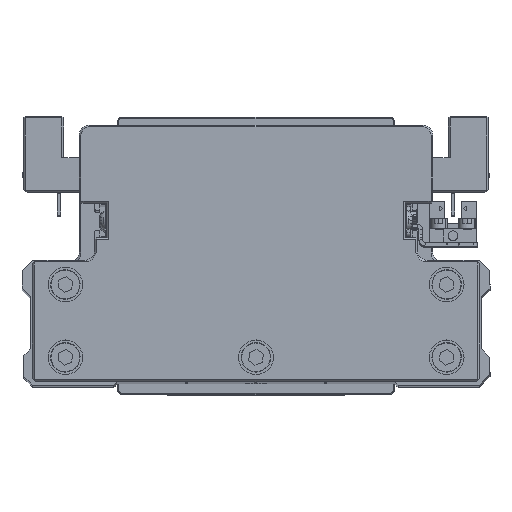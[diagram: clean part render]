
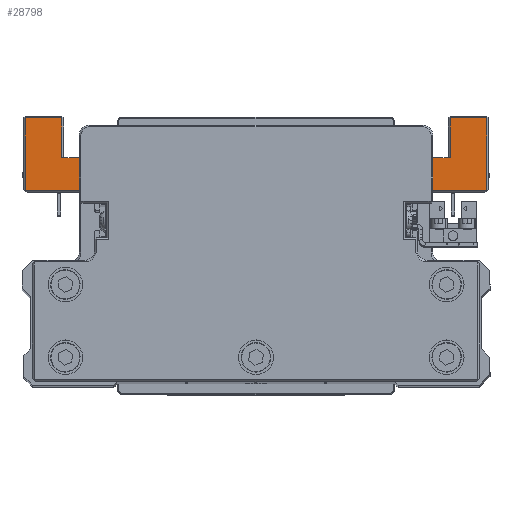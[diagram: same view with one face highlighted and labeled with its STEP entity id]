
A CAD part, top view. The second image highlights one B-rep face of the part: STEP entity #28798.
In plain terms, the highlighted planar face has unit normal (0, 0, 1) as drawn and (0, -1, 0) by its records, which use the part's own axes.
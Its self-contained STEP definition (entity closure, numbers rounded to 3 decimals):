
#77 = DIRECTION ( 'NONE',  ( 1., 0., 0. ) ) ;
#259 = CARTESIAN_POINT ( 'NONE',  ( 66.5, -45., -64. ) ) ;
#725 = DIRECTION ( 'NONE',  ( 0., 0., -1. ) ) ;
#819 = LINE ( 'NONE', #13031, #37219 ) ;
#976 = ORIENTED_EDGE ( 'NONE', *, *, #5718, .F. ) ;
#982 = ORIENTED_EDGE ( 'NONE', *, *, #38992, .T. ) ;
#1112 = DIRECTION ( 'NONE',  ( 0., 0., 1. ) ) ;
#1225 = VECTOR ( 'NONE', #6155, 1000. ) ;
#1283 = CARTESIAN_POINT ( 'NONE',  ( 46., -45., -54. ) ) ;
#1342 = VERTEX_POINT ( 'NONE', #33151 ) ;
#1745 = EDGE_CURVE ( 'NONE', #11374, #8166, #28163, .T. ) ;
#1892 = LINE ( 'NONE', #14096, #27022 ) ;
#2253 = DIRECTION ( 'NONE',  ( -0.991, 0., 0.132 ) ) ;
#2312 = VERTEX_POINT ( 'NONE', #21242 ) ;
#2483 = EDGE_CURVE ( 'NONE', #28383, #39223, #19205, .T. ) ;
#3019 = EDGE_CURVE ( 'NONE', #2312, #20739, #1892, .T. ) ;
#3265 = VECTOR ( 'NONE', #37296, 1000. ) ;
#3867 = DIRECTION ( 'NONE',  ( 0., 0., -1. ) ) ;
#3988 = DIRECTION ( 'NONE',  ( -1., 0., 0. ) ) ;
#5356 = ORIENTED_EDGE ( 'NONE', *, *, #19787, .T. ) ;
#5718 = EDGE_CURVE ( 'NONE', #5726, #35766, #16328, .T. ) ;
#5726 = VERTEX_POINT ( 'NONE', #7323 ) ;
#6151 = DIRECTION ( 'NONE',  ( -1., 0., 0. ) ) ;
#6155 = DIRECTION ( 'NONE',  ( 0., 0., 1. ) ) ;
#6385 = CARTESIAN_POINT ( 'NONE',  ( 67., -45., -64. ) ) ;
#7207 = CARTESIAN_POINT ( 'NONE',  ( 56., -45., -64. ) ) ;
#7323 = CARTESIAN_POINT ( 'NONE',  ( -46., -45., -54. ) ) ;
#7403 = DIRECTION ( 'NONE',  ( 0., 0., -1. ) ) ;
#7740 = CARTESIAN_POINT ( 'NONE',  ( -66.5, -45., -43. ) ) ;
#8154 = VECTOR ( 'NONE', #2253, 1000. ) ;
#8166 = VERTEX_POINT ( 'NONE', #8617 ) ;
#8489 = CARTESIAN_POINT ( 'NONE',  ( -55.5, -45., -64. ) ) ;
#8598 = CARTESIAN_POINT ( 'NONE',  ( -39.868, -45., -42.987 ) ) ;
#8617 = CARTESIAN_POINT ( 'NONE',  ( 39.868, -45., -42.987 ) ) ;
#9155 = VECTOR ( 'NONE', #6151, 1000. ) ;
#9677 = VECTOR ( 'NONE', #3867, 1000. ) ;
#9796 = VECTOR ( 'NONE', #9997, 1000. ) ;
#9997 = DIRECTION ( 'NONE',  ( -1., 0., 0. ) ) ;
#10357 = DIRECTION ( 'NONE',  ( 0., 1., 0. ) ) ;
#10419 = PLANE ( 'NONE',  #30774 ) ;
#10898 = AXIS2_PLACEMENT_3D ( 'NONE', #26708, #38941, #11482 ) ;
#11374 = VERTEX_POINT ( 'NONE', #35826 ) ;
#11412 = ORIENTED_EDGE ( 'NONE', *, *, #17517, .T. ) ;
#11482 = DIRECTION ( 'NONE',  ( 0., 0., -1. ) ) ;
#11486 = CARTESIAN_POINT ( 'NONE',  ( -56., -45., -52.5 ) ) ;
#11811 = ORIENTED_EDGE ( 'NONE', *, *, #32246, .F. ) ;
#12619 = ORIENTED_EDGE ( 'NONE', *, *, #36101, .F. ) ;
#12842 = LINE ( 'NONE', #25065, #3265 ) ;
#13031 = CARTESIAN_POINT ( 'NONE',  ( -66., -45., -43. ) ) ;
#13528 = VECTOR ( 'NONE', #725, 1000. ) ;
#13705 = VECTOR ( 'NONE', #77, 1000. ) ;
#14096 = CARTESIAN_POINT ( 'NONE',  ( -77.786, -45., -42.5 ) ) ;
#15278 = LINE ( 'NONE', #27508, #13705 ) ;
#15751 = ORIENTED_EDGE ( 'NONE', *, *, #20264, .T. ) ;
#15935 = LINE ( 'NONE', #28164, #13528 ) ;
#16188 = CARTESIAN_POINT ( 'NONE',  ( -36.217, -45., -42.5 ) ) ;
#16328 = LINE ( 'NONE', #28547, #28319 ) ;
#16843 = VECTOR ( 'NONE', #23707, 1000. ) ;
#17468 = LINE ( 'NONE', #29688, #8154 ) ;
#17517 = EDGE_CURVE ( 'NONE', #36035, #17595, #21406, .T. ) ;
#17595 = VERTEX_POINT ( 'NONE', #18792 ) ;
#17762 = VERTEX_POINT ( 'NONE', #19979 ) ;
#18598 = VECTOR ( 'NONE', #18623, 1000. ) ;
#18623 = DIRECTION ( 'NONE',  ( 1., 0., 0. ) ) ;
#18792 = CARTESIAN_POINT ( 'NONE',  ( 66.5, -45., -43. ) ) ;
#19075 = AXIS2_PLACEMENT_3D ( 'NONE', #37821, #10357, #22585 ) ;
#19080 = LINE ( 'NONE', #31307, #9677 ) ;
#19205 = LINE ( 'NONE', #31433, #19911 ) ;
#19787 = EDGE_CURVE ( 'NONE', #28383, #28040, #19080, .T. ) ;
#19911 = VECTOR ( 'NONE', #3988, 1000. ) ;
#19979 = CARTESIAN_POINT ( 'NONE',  ( -39.868, -45., -42.987 ) ) ;
#20205 = CARTESIAN_POINT ( 'NONE',  ( -56., -45., -52.5 ) ) ;
#20264 = EDGE_CURVE ( 'NONE', #28976, #22768, #819, .T. ) ;
#20342 = ORIENTED_EDGE ( 'NONE', *, *, #21478, .T. ) ;
#20392 = ORIENTED_EDGE ( 'NONE', *, *, #24010, .T. ) ;
#20712 = DIRECTION ( 'NONE',  ( 1., 0., 0. ) ) ;
#20739 = VERTEX_POINT ( 'NONE', #16188 ) ;
#20812 = DIRECTION ( 'NONE',  ( -0.991, 0., -0.132 ) ) ;
#21242 = CARTESIAN_POINT ( 'NONE',  ( 36.217, -45., -42.5 ) ) ;
#21404 = LINE ( 'NONE', #33610, #9155 ) ;
#21406 = LINE ( 'NONE', #33612, #1225 ) ;
#21419 = ORIENTED_EDGE ( 'NONE', *, *, #37593, .T. ) ;
#21478 = EDGE_CURVE ( 'NONE', #34799, #22356, #38945, .T. ) ;
#22356 = VERTEX_POINT ( 'NONE', #20205 ) ;
#22585 = DIRECTION ( 'NONE',  ( 0., 0., -1. ) ) ;
#22640 = CARTESIAN_POINT ( 'NONE',  ( 0., -45., 0. ) ) ;
#22768 = VERTEX_POINT ( 'NONE', #7740 ) ;
#22874 = CARTESIAN_POINT ( 'NONE',  ( 46., -45., -52.5 ) ) ;
#23228 = EDGE_CURVE ( 'NONE', #8166, #2312, #17468, .T. ) ;
#23707 = DIRECTION ( 'NONE',  ( 0., 0., 1. ) ) ;
#24010 = EDGE_CURVE ( 'NONE', #17762, #28976, #36371, .T. ) ;
#25065 = CARTESIAN_POINT ( 'NONE',  ( 46., -45., -52.5 ) ) ;
#25236 = LINE ( 'NONE', #37458, #9796 ) ;
#25254 = DIRECTION ( 'NONE',  ( -1., 0., 0. ) ) ;
#25579 = ORIENTED_EDGE ( 'NONE', *, *, #1745, .T. ) ;
#26153 = EDGE_CURVE ( 'NONE', #28040, #36035, #33835, .T. ) ;
#26323 = DIRECTION ( 'NONE',  ( -1., 0., 0. ) ) ;
#26708 = CARTESIAN_POINT ( 'NONE',  ( 40.066, -45., -41.5 ) ) ;
#27022 = VECTOR ( 'NONE', #26323, 1000. ) ;
#27508 = CARTESIAN_POINT ( 'NONE',  ( 46., -45., -54. ) ) ;
#28040 = VERTEX_POINT ( 'NONE', #7207 ) ;
#28163 = CIRCLE ( 'NONE', #10898, 1.5 ) ;
#28164 = CARTESIAN_POINT ( 'NONE',  ( -66.5, -45., -64.5 ) ) ;
#28319 = VECTOR ( 'NONE', #1112, 1000. ) ;
#28383 = VERTEX_POINT ( 'NONE', #37768 ) ;
#28547 = CARTESIAN_POINT ( 'NONE',  ( -46., -45., -52.5 ) ) ;
#28798 = ADVANCED_FACE ( 'NONE', ( #37879 ), #10419, .T. ) ;
#28976 = VERTEX_POINT ( 'NONE', #33018 ) ;
#29120 = CARTESIAN_POINT ( 'NONE',  ( -46., -45., -52.5 ) ) ;
#29688 = CARTESIAN_POINT ( 'NONE',  ( 25.802, -45., -41.111 ) ) ;
#30263 = VECTOR ( 'NONE', #20812, 1000. ) ;
#30554 = ORIENTED_EDGE ( 'NONE', *, *, #26153, .T. ) ;
#30774 = AXIS2_PLACEMENT_3D ( 'NONE', #22640, #34860, #7403 ) ;
#31307 = CARTESIAN_POINT ( 'NONE',  ( 56., -45., -64.5 ) ) ;
#31433 = CARTESIAN_POINT ( 'NONE',  ( 55.5, -45., -52.5 ) ) ;
#32136 = EDGE_CURVE ( 'NONE', #20739, #17762, #36054, .T. ) ;
#32246 = EDGE_CURVE ( 'NONE', #35766, #22356, #21404, .T. ) ;
#32972 = ORIENTED_EDGE ( 'NONE', *, *, #3019, .T. ) ;
#33018 = CARTESIAN_POINT ( 'NONE',  ( -40.066, -45., -43. ) ) ;
#33151 = CARTESIAN_POINT ( 'NONE',  ( -66.5, -45., -64. ) ) ;
#33429 = VECTOR ( 'NONE', #20712, 1000. ) ;
#33610 = CARTESIAN_POINT ( 'NONE',  ( -55.5, -45., -52.5 ) ) ;
#33612 = CARTESIAN_POINT ( 'NONE',  ( 66.5, -45., -43.5 ) ) ;
#33835 = LINE ( 'NONE', #6385, #18598 ) ;
#34215 = ORIENTED_EDGE ( 'NONE', *, *, #23228, .T. ) ;
#34799 = VERTEX_POINT ( 'NONE', #37687 ) ;
#34860 = DIRECTION ( 'NONE',  ( 0., -1., 0. ) ) ;
#35067 = ORIENTED_EDGE ( 'NONE', *, *, #32136, .T. ) ;
#35151 = EDGE_CURVE ( 'NONE', #22768, #1342, #15935, .T. ) ;
#35230 = ORIENTED_EDGE ( 'NONE', *, *, #2483, .F. ) ;
#35766 = VERTEX_POINT ( 'NONE', #29120 ) ;
#35826 = CARTESIAN_POINT ( 'NONE',  ( 40.066, -45., -43. ) ) ;
#35949 = LINE ( 'NONE', #8489, #33429 ) ;
#36035 = VERTEX_POINT ( 'NONE', #259 ) ;
#36054 = LINE ( 'NONE', #8598, #30263 ) ;
#36101 = EDGE_CURVE ( 'NONE', #39223, #37000, #12842, .T. ) ;
#36371 = CIRCLE ( 'NONE', #19075, 1.5 ) ;
#36417 = ORIENTED_EDGE ( 'NONE', *, *, #38292, .T. ) ;
#36652 = ORIENTED_EDGE ( 'NONE', *, *, #35151, .T. ) ;
#36829 = EDGE_LOOP ( 'NONE', ( #32972, #35067, #20392, #15751, #36652, #21419, #20342, #11811, #976, #982, #12619, #35230, #5356, #30554, #11412, #36417, #25579, #34215 ) ) ;
#37000 = VERTEX_POINT ( 'NONE', #1283 ) ;
#37219 = VECTOR ( 'NONE', #25254, 1000. ) ;
#37296 = DIRECTION ( 'NONE',  ( 0., 0., -1. ) ) ;
#37458 = CARTESIAN_POINT ( 'NONE',  ( 40.066, -45., -43. ) ) ;
#37593 = EDGE_CURVE ( 'NONE', #1342, #34799, #35949, .T. ) ;
#37687 = CARTESIAN_POINT ( 'NONE',  ( -56., -45., -64. ) ) ;
#37768 = CARTESIAN_POINT ( 'NONE',  ( 56., -45., -52.5 ) ) ;
#37821 = CARTESIAN_POINT ( 'NONE',  ( -40.066, -45., -41.5 ) ) ;
#37879 = FACE_OUTER_BOUND ( 'NONE', #36829, .T. ) ;
#38292 = EDGE_CURVE ( 'NONE', #17595, #11374, #25236, .T. ) ;
#38941 = DIRECTION ( 'NONE',  ( 0., 1., 0. ) ) ;
#38945 = LINE ( 'NONE', #11486, #16843 ) ;
#38992 = EDGE_CURVE ( 'NONE', #5726, #37000, #15278, .T. ) ;
#39223 = VERTEX_POINT ( 'NONE', #22874 ) ;
